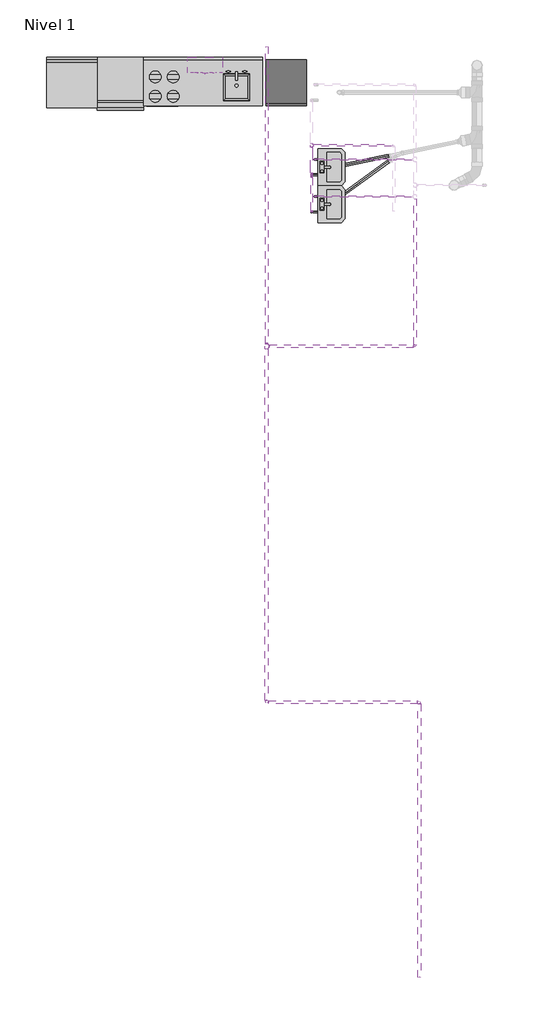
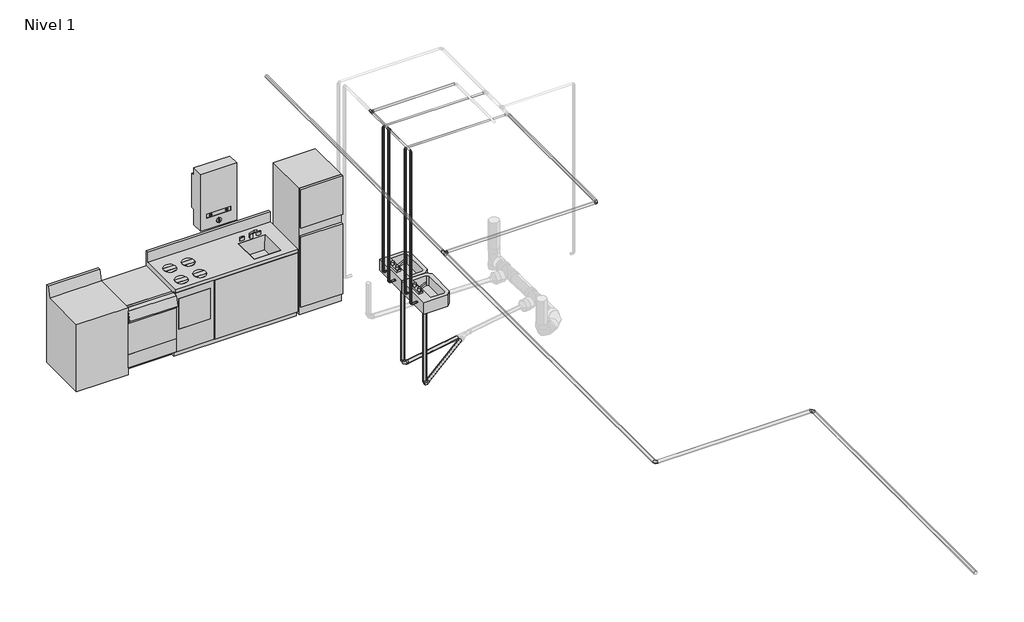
# One storey, part 1 of 2: 23 pipe segments, 19 pipe fittings, 5 flow terminals, 1 proxy.
"""IFC4 building model written with IfcOpenShell, lengths in millimetres."""

from ifc_helpers import new_model, si_unit, point, frame, frame_2d, origin, place, context, project, spatial, circle_curve, trimmed, segment, composite_curve, outline, extrude, transform, mapped, element, save
from components import proxy_2_3_l_a5d88984, flow_terminal_59181b66, flow_terminal_660_mmx610_mm_c472654d, lavabo_cte_a7cef0fe, unidad_de_cocina_cte_635_mmx2135_mm_826748c3, pipe_fitting_c06ac706, pipe_fitting_a088f956, pipe_fitting_5078887e, pipe_fitting_de849fe6, pipe_fitting_44e35838, pipe_fitting_fdf44402, pipe_fitting_a6ae4ebe, pipe_fitting_7ca1ba8e, pipe_fitting_e297dbca, m_codo_pvc_serie_40_dwv_140f2321, m_codo_pvc_serie_40_dwv_f30e2e26

model = new_model("IFC4")

# Units and contexts
model_context = context("Model", 3, world=origin())
ifc_project = project(units=[si_unit("LENGTHUNIT", "METRE", prefix="MILLI")], contexts=[model_context])

# Site, building, storey
site = spatial("IfcSite", under=ifc_project)
building = spatial("IfcBuilding", under=site)
storey = spatial("IfcBuildingStorey", under=building, Name="Nivel 1", Elevation=200.0)

# Proxy
placement = place(None, origin())
proxy_2_3_l_shape = proxy_2_3_l_a5d88984(model_context)
element("IfcBuildingElementProxy", 1, Name="M_Calentador de agua - Sin depósito : 2.3 L", ObjectType="M_Calentador de agua - Sin depósito : 2.3 L", at=placement, inside=storey, context=model_context, shape_type="MappedRepresentation", body=[
    mapped(proxy_2_3_l_shape, transform((7751.7362821, 12906.5177396, 1434.1070881), x_axis=(1.0, 0.0, 0.0), y_axis=(0.0, 0.0, 1.0), z_axis=(0.0, -1.0, 0.0))),
])

# Flow terminals
flow_terminal_shape = flow_terminal_59181b66(model_context)
element("IfcFlowTerminal", 2, ObjectType="Lavadora CTE : 660 mm x660 mm - Público", at=placement, inside=storey, context=model_context, shape_type="MappedRepresentation", body=[
    mapped(flow_terminal_shape, transform((6006.7375, 12906.5177396, 200.0), x_axis=(0.0, -1.0000000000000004, 0.0), y_axis=(1.0000000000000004, 0.0, 0.0), z_axis=(0.0, 0.0, 1.0))),
])
flow_terminal_660_mmx610_mm_shape = flow_terminal_660_mmx610_mm_c472654d(model_context)
element("IfcFlowTerminal", 3, ObjectType="Lavavajillas CTE : 660 mmx610 mm", at=placement, inside=storey, context=model_context, shape_type="MappedRepresentation", body=[
    mapped(flow_terminal_660_mmx610_mm_shape, transform((6641.7375, 12906.5177396, 200.0), x_axis=(0.0, -1.0000000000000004, 0.0), y_axis=(1.0000000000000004, 0.0, 0.0), z_axis=(0.0, 0.0, 1.0))),
])
lavabo_cte_shape = lavabo_cte_a7cef0fe(model_context)
element("IfcFlowTerminal", 4, ObjectType="Lavabo CTE : 485 mm x 355 mm - Privado", at=placement, inside=storey, context=model_context, shape_type="MappedRepresentation", body=[
    mapped(lavabo_cte_shape, transform((9230.0, 11471.9444303, 1065.0), x_axis=(0.0, 1.0, 0.0), y_axis=(0.0, 0.0, 1.0), z_axis=(1.0, 0.0, 0.0))),
])
element("IfcFlowTerminal", 5, ObjectType="Lavabo CTE : 485 mm x 355 mm - Privado", at=placement, inside=storey, context=model_context, shape_type="MappedRepresentation", body=[
    mapped(lavabo_cte_shape, transform((9230.0, 10986.9444303, 1065.0), x_axis=(0.0, 1.0, 0.0), y_axis=(0.0, 0.0, 1.0), z_axis=(1.0, 0.0, 0.0))),
])
unidad_de_cocina_cte_635_mmx2135_mm_shape = unidad_de_cocina_cte_635_mmx2135_mm_826748c3(model_context)
element("IfcFlowTerminal", 6, ObjectType="Unidad de cocina CTE : 635 mmx2135 mm", at=placement, inside=storey, context=model_context, shape_type="MappedRepresentation", body=[
    mapped(unidad_de_cocina_cte_635_mmx2135_mm_shape, transform((7725.2375, 12906.5177396, 200.0), x_axis=(0.0, -1.0000000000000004, 0.0), y_axis=(1.0000000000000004, 0.0, 0.0), z_axis=(0.0, 0.0, 1.0))),
])

# Pipe fittings
pipe_fitting_shape = pipe_fitting_c06ac706(model_context)
element("IfcPipeFitting", 7, ObjectType="M_Codo - Genérico : Estándar", at=placement, inside=storey, context=model_context, shape_type="MappedRepresentation", body=[
    mapped(pipe_fitting_shape, transform((10500.0001888, 9129.6230932, 2950.0), x_axis=(1.0, 0.0, 0.0), y_axis=(0.0, 1.0, 0.0), z_axis=(0.0, 0.0, 1.0))),
])
pipe_fitting_2_shape = pipe_fitting_a088f956(model_context)
element("IfcPipeFitting", 8, ObjectType="M_Codo - Genérico : Estándar", at=placement, inside=storey, context=model_context, shape_type="MappedRepresentation", body=[
    mapped(pipe_fitting_2_shape, transform((9190.3125102, 11571.9444303, 990.4), x_axis=(-1.0, 0.0, 0.0), y_axis=(0.0, 0.0, 1.0), z_axis=(0.0, 1.0, 0.0))),
])
element("IfcPipeFitting", 9, ObjectType="M_Codo - Genérico : Estándar", at=placement, inside=storey, context=model_context, shape_type="MappedRepresentation", body=[
    mapped(pipe_fitting_2_shape, transform((9190.3125102, 11086.9444303, 990.4), x_axis=(-1.0, 0.0, 0.0), y_axis=(0.0, 0.0, 1.0), z_axis=(0.0, 1.0, 0.0))),
])
element("IfcPipeFitting", 10, ObjectType="M_Codo - Genérico : Estándar", at=placement, inside=storey, context=model_context, shape_type="MappedRepresentation", body=[
    mapped(pipe_fitting_2_shape, transform((9190.3125102, 11086.9444303, 2950.0), x_axis=(0.0, 0.0, 1.0), y_axis=(1.0, 0.0, 0.0), z_axis=(0.0, 1.0, 0.0))),
])
element("IfcPipeFitting", 11, ObjectType="M_Codo - Genérico : Estándar", at=placement, inside=storey, context=model_context, shape_type="MappedRepresentation", body=[
    mapped(pipe_fitting_2_shape, transform((9190.3125102, 11571.9444303, 2950.0), x_axis=(0.0, 0.0, 1.0), y_axis=(1.0, 0.0, 0.0), z_axis=(0.0, 1.0, 0.0))),
])
element("IfcPipeFitting", 12, ObjectType="M_Codo - Genérico : Estándar", at=placement, inside=storey, context=model_context, shape_type="MappedRepresentation", body=[
    mapped(pipe_fitting_2_shape, transform((9146.7332837, 11371.8000018, 990.4), x_axis=(-1.0, 0.0, 0.0), y_axis=(0.0, 0.0, 1.0), z_axis=(0.0, 1.0, 0.0))),
])
element("IfcPipeFitting", 13, ObjectType="M_Codo - Genérico : Estándar", at=placement, inside=storey, context=model_context, shape_type="MappedRepresentation", body=[
    mapped(pipe_fitting_2_shape, transform((9146.7516979, 10886.9444303, 990.4), x_axis=(-1.0, 0.0, 0.0), y_axis=(0.0, 0.0, 1.0), z_axis=(0.0, 1.0, 0.0))),
])
element("IfcPipeFitting", 14, ObjectType="M_Codo - Genérico : Estándar", at=placement, inside=storey, context=model_context, shape_type="MappedRepresentation", body=[
    mapped(pipe_fitting_2_shape, transform((9146.7516979, 10886.9444303, 3050.0), x_axis=(0.0, 0.0, 1.0), y_axis=(0.0, 1.0, 0.0), z_axis=(-1.0, 0.0, 0.0))),
])
pipe_fitting_3_shape = pipe_fitting_5078887e(model_context)
element("IfcPipeFitting", 15, ObjectType="M_Te - Genérica : Estándar", at=placement, inside=storey, context=model_context, shape_type="MappedRepresentation", body=[
    mapped(pipe_fitting_3_shape, transform((9146.7332837, 11371.8000018, 3050.0), x_axis=(0.0033141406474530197, -0.9999945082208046, 0.0), y_axis=(0.0, 0.0, 1.0), z_axis=(-0.9999945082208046, -0.0033141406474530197, 0.0))),
])
pipe_fitting_4_shape = pipe_fitting_de849fe6(model_context)
element("IfcPipeFitting", 16, ObjectType="M_Transición - Genérica : Estándar", at=placement, inside=storey, context=model_context, shape_type="MappedRepresentation", body=[
    mapped(pipe_fitting_4_shape, transform((9146.8122017, 11347.9876326, 3050.0), x_axis=(0.0033141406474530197, -0.9999945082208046, 0.0), y_axis=(0.9999945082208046, 0.0033141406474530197, 0.0), z_axis=(0.0, 0.0, 1.0))),
])
pipe_fitting_5_shape = pipe_fitting_44e35838(model_context)
element("IfcPipeFitting", 17, ObjectType="M_Transición - Genérica : Estándar", at=placement, inside=storey, context=model_context, shape_type="MappedRepresentation", body=[
    mapped(pipe_fitting_5_shape, transform((9146.7332837, 11371.8000018, 3026.1875), x_axis=(0.0, 0.0, -1.0), y_axis=(0.0033141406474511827, -0.9999945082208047, 0.0), z_axis=(-0.9999945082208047, -0.0033141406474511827, 0.0))),
])
pipe_fitting_6_shape = pipe_fitting_fdf44402(model_context)
element("IfcPipeFitting", 18, ObjectType="M_Te - Genérica : Estándar", at=placement, inside=storey, context=model_context, shape_type="MappedRepresentation", body=[
    mapped(pipe_fitting_6_shape, transform((9145.4546855, 11757.5987093, 3050.0), x_axis=(-0.0033141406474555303, 0.9999945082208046, 0.0), y_axis=(-0.9999945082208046, -0.0033141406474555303, 0.0), z_axis=(0.0, 0.0, 1.0))),
])
pipe_fitting_7_shape = pipe_fitting_a6ae4ebe(model_context)
element("IfcPipeFitting", 19, ObjectType="M_Codo - Genérico : Estándar", at=placement, inside=storey, context=model_context, shape_type="MappedRepresentation", body=[
    mapped(pipe_fitting_7_shape, transform((10556.916867, 4476.7860803, 2950.0), x_axis=(0.0, 1.0, 0.0), y_axis=(-1.0, 0.0, 0.0), z_axis=(0.0, 0.0, 1.0))),
])
element("IfcPipeFitting", 20, ObjectType="M_Codo - Genérico : Estándar", at=placement, inside=storey, context=model_context, shape_type="MappedRepresentation", body=[
    mapped(pipe_fitting_7_shape, transform((8556.916867, 4476.7860803, 2950.0), x_axis=(0.0, -1.0, 0.0), y_axis=(1.0, 0.0, 0.0), z_axis=(0.0, 0.0, 1.0))),
])
pipe_fitting_8_shape = pipe_fitting_7ca1ba8e(model_context)
element("IfcPipeFitting", 21, ObjectType="M_Transición - Genérica : Estándar", at=placement, inside=storey, context=model_context, shape_type="MappedRepresentation", body=[
    mapped(pipe_fitting_8_shape, transform((8587.079367, 9129.6230932, 2950.0), x_axis=(1.0, 0.0, 0.0), y_axis=(0.0, 1.0, 0.0), z_axis=(0.0, 0.0, 1.0))),
])
element("IfcPipeFitting", 22, ObjectType="M_Transición - Genérica : Estándar", at=placement, inside=storey, context=model_context, shape_type="MappedRepresentation", body=[
    mapped(pipe_fitting_8_shape, transform((8556.916867, 9159.7855932, 2950.0), x_axis=(0.0, 1.0, 0.0), y_axis=(-1.0, 0.0, 0.0), z_axis=(0.0, 0.0, 1.0))),
])
pipe_fitting_9_shape = pipe_fitting_e297dbca(model_context)
element("IfcPipeFitting", 23, ObjectType="M_Te - Genérica : Estándar", at=placement, inside=storey, context=model_context, shape_type="MappedRepresentation", body=[
    mapped(pipe_fitting_9_shape, transform((8556.916867, 9129.6230932, 2950.0), x_axis=(0.0, -1.0, 0.0), y_axis=(-1.0, 0.0, 0.0), z_axis=(0.0, 0.0, -1.0))),
])
m_codo_pvc_serie_40_dwv_shape = m_codo_pvc_serie_40_dwv_140f2321(model_context)
element("IfcPipeFitting", 24, ObjectType="M_Codo - PVC - Serie 40 - DWV : Estándar", at=placement, inside=storey, context=model_context, shape_type="MappedRepresentation", body=[
    mapped(m_codo_pvc_serie_40_dwv_shape, transform((9382.4, 11471.9444303, -243.0053724), x_axis=(0.0, 0.0, -1.0), y_axis=(1.0, 0.0, 0.0), z_axis=(0.0, -1.0, 0.0))),
])
m_codo_pvc_serie_40_dwv_2_shape = m_codo_pvc_serie_40_dwv_f30e2e26(model_context)
element("IfcPipeFitting", 25, ObjectType="M_Codo - PVC - Serie 40 - DWV : Estándar", at=placement, inside=storey, context=model_context, shape_type="MappedRepresentation", body=[
    mapped(m_codo_pvc_serie_40_dwv_2_shape, transform((9382.4, 10986.9444303, -233.3053724), x_axis=(0.0, 0.0, -1.0), y_axis=(0.809031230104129, 0.5877656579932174, 0.0), z_axis=(0.5877656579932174, -0.809031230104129, 0.0))),
])

# Pipe segments
element("IfcPipeSegment", 26, ObjectType="PEX - Polietileno Reticulado", at=placement, inside=storey, context=model_context, shape_type="SweptSolid", body=[
    extrude(outline(composite_curve([segment(trimmed(circle_curve(frame_2d((11571.9444303, 990.4)), 10.668), [point((11582.6124303, 990.4))], [point((11571.9444303, 979.732))], False, "CARTESIAN"), True, "CONTINUOUS"), segment(trimmed(circle_curve(frame_2d((11571.9444303, 990.4)), 10.668), [point((11571.9444303, 979.732))], [point((11561.2764303, 990.4))], False, "CARTESIAN"), True, "CONTINUOUS"), segment(trimmed(circle_curve(frame_2d((11571.9444303, 990.4)), 10.668), [point((11561.2764303, 990.4))], [point((11571.9444303, 1001.068))], False, "CARTESIAN"), True, "CONTINUOUS"), segment(trimmed(circle_curve(frame_2d((11571.9444303, 990.4)), 10.668), [point((11571.9444303, 1001.068))], [point((11582.6124303, 990.4))], False, "CARTESIAN"), True, "CONTINUOUS")], self_intersect=False)), frame((9204.6000102, 0.0, 0.0), z_axis=(1.0, 0.0, 0.0), x_axis=(0.0, 1.0, 0.0)), (0.0, 0.0, 1.0), 25.3999898),
])
element("IfcPipeSegment", 27, ObjectType="PEX - Polietileno Reticulado", at=placement, inside=storey, context=model_context, shape_type="SweptSolid", body=[
    extrude(outline(composite_curve([segment(trimmed(circle_curve(frame_2d((9190.3125102, 11571.9444303)), 10.668), [point((9179.6445102, 11571.9444303))], [point((9190.3125102, 11582.6124303))], False, "CARTESIAN"), True, "CONTINUOUS"), segment(trimmed(circle_curve(frame_2d((9190.3125102, 11571.9444303)), 10.668), [point((9190.3125102, 11582.6124303))], [point((9200.9805102, 11571.9444303))], False, "CARTESIAN"), True, "CONTINUOUS"), segment(trimmed(circle_curve(frame_2d((9190.3125102, 11571.9444303)), 10.668), [point((9200.9805102, 11571.9444303))], [point((9190.3125102, 11561.2764303))], False, "CARTESIAN"), True, "CONTINUOUS"), segment(trimmed(circle_curve(frame_2d((9190.3125102, 11571.9444303)), 10.668), [point((9190.3125102, 11561.2764303))], [point((9179.6445102, 11571.9444303))], False, "CARTESIAN"), True, "CONTINUOUS")], self_intersect=False)), frame((0.0, 0.0, 1004.6875), z_axis=(0.0, 0.0, 1.0), x_axis=(1.0, 0.0, 0.0)), (0.0, 0.0, 1.0), 1931.025),
])
element("IfcPipeSegment", 28, ObjectType="PEX - Polietileno Reticulado", at=placement, inside=storey, context=model_context, shape_type="SweptSolid", body=[
    extrude(outline(composite_curve([segment(trimmed(circle_curve(frame_2d((11571.9444303, 2950.0)), 10.668), [point((11561.2764303, 2950.0))], [point((11571.9444303, 2960.668))], False, "CARTESIAN"), True, "CONTINUOUS"), segment(trimmed(circle_curve(frame_2d((11571.9444303, 2950.0)), 10.668), [point((11571.9444303, 2960.668))], [point((11582.6124303, 2950.0))], False, "CARTESIAN"), True, "CONTINUOUS"), segment(trimmed(circle_curve(frame_2d((11571.9444303, 2950.0)), 10.668), [point((11582.6124303, 2950.0))], [point((11571.9444303, 2939.332))], False, "CARTESIAN"), True, "CONTINUOUS"), segment(trimmed(circle_curve(frame_2d((11571.9444303, 2950.0)), 10.668), [point((11571.9444303, 2939.332))], [point((11561.2764303, 2950.0))], False, "CARTESIAN"), True, "CONTINUOUS")], self_intersect=False)), frame((9204.6000102, 0.0, 0.0), z_axis=(1.0, 0.0, 0.0), x_axis=(0.0, 1.0, 0.0)), (0.0, 0.0, 1.0), 1261.2689286),
])
element("IfcPipeSegment", 29, ObjectType="PEX - Polietileno Reticulado", at=placement, inside=storey, context=model_context, shape_type="SweptSolid", body=[
    extrude(outline(composite_curve([segment(trimmed(circle_curve(frame_2d((11086.9444303, 990.4)), 10.668), [point((11097.6124303, 990.4))], [point((11086.9444303, 979.732))], False, "CARTESIAN"), True, "CONTINUOUS"), segment(trimmed(circle_curve(frame_2d((11086.9444303, 990.4)), 10.668), [point((11086.9444303, 979.732))], [point((11076.2764303, 990.4))], False, "CARTESIAN"), True, "CONTINUOUS"), segment(trimmed(circle_curve(frame_2d((11086.9444303, 990.4)), 10.668), [point((11076.2764303, 990.4))], [point((11086.9444303, 1001.068))], False, "CARTESIAN"), True, "CONTINUOUS"), segment(trimmed(circle_curve(frame_2d((11086.9444303, 990.4)), 10.668), [point((11086.9444303, 1001.068))], [point((11097.6124303, 990.4))], False, "CARTESIAN"), True, "CONTINUOUS")], self_intersect=False)), frame((9204.6000102, 0.0, 0.0), z_axis=(1.0, 0.0, 0.0), x_axis=(0.0, 1.0, 0.0)), (0.0, 0.0, 1.0), 25.3999898),
])
element("IfcPipeSegment", 30, ObjectType="PEX - Polietileno Reticulado", at=placement, inside=storey, context=model_context, shape_type="SweptSolid", body=[
    extrude(outline(composite_curve([segment(trimmed(circle_curve(frame_2d((9190.3125102, 11086.9444303)), 10.668), [point((9179.6445102, 11086.9444303))], [point((9190.3125102, 11097.6124303))], False, "CARTESIAN"), True, "CONTINUOUS"), segment(trimmed(circle_curve(frame_2d((9190.3125102, 11086.9444303)), 10.668), [point((9190.3125102, 11097.6124303))], [point((9200.9805102, 11086.9444303))], False, "CARTESIAN"), True, "CONTINUOUS"), segment(trimmed(circle_curve(frame_2d((9190.3125102, 11086.9444303)), 10.668), [point((9200.9805102, 11086.9444303))], [point((9190.3125102, 11076.2764303))], False, "CARTESIAN"), True, "CONTINUOUS"), segment(trimmed(circle_curve(frame_2d((9190.3125102, 11086.9444303)), 10.668), [point((9190.3125102, 11076.2764303))], [point((9179.6445102, 11086.9444303))], False, "CARTESIAN"), True, "CONTINUOUS")], self_intersect=False)), frame((0.0, 0.0, 1004.6875), z_axis=(0.0, 0.0, 1.0), x_axis=(1.0, 0.0, 0.0)), (0.0, 0.0, 1.0), 1931.025),
])
element("IfcPipeSegment", 31, ObjectType="PEX - Polietileno Reticulado", at=placement, inside=storey, context=model_context, shape_type="SweptSolid", body=[
    extrude(outline(composite_curve([segment(trimmed(circle_curve(frame_2d((11086.9444303, 2950.0)), 10.668), [point((11076.2764303, 2950.0))], [point((11086.9444303, 2960.668))], False, "CARTESIAN"), True, "CONTINUOUS"), segment(trimmed(circle_curve(frame_2d((11086.9444303, 2950.0)), 10.668), [point((11086.9444303, 2960.668))], [point((11097.6124303, 2950.0))], False, "CARTESIAN"), True, "CONTINUOUS"), segment(trimmed(circle_curve(frame_2d((11086.9444303, 2950.0)), 10.668), [point((11097.6124303, 2950.0))], [point((11086.9444303, 2939.332))], False, "CARTESIAN"), True, "CONTINUOUS"), segment(trimmed(circle_curve(frame_2d((11086.9444303, 2950.0)), 10.668), [point((11086.9444303, 2939.332))], [point((11076.2764303, 2950.0))], False, "CARTESIAN"), True, "CONTINUOUS")], self_intersect=False)), frame((9204.6000102, 0.0, 0.0), z_axis=(1.0, 0.0, 0.0), x_axis=(0.0, 1.0, 0.0)), (0.0, 0.0, 1.0), 1261.2689286),
])
element("IfcPipeSegment", 32, ObjectType="PEX - Polietileno Reticulado", at=placement, inside=storey, context=model_context, shape_type="SweptSolid", body=[
    extrude(outline(composite_curve([segment(trimmed(circle_curve(frame_2d((2950.0, 10500.0001888)), 16.7005), [point((2950.0, 10483.2996888))], [point((2933.2995, 10500.0001888))], False, "CARTESIAN"), True, "CONTINUOUS"), segment(trimmed(circle_curve(frame_2d((2950.0, 10500.0001888)), 16.7005), [point((2933.2995, 10500.0001888))], [point((2950.0, 10516.7006888))], False, "CARTESIAN"), True, "CONTINUOUS"), segment(trimmed(circle_curve(frame_2d((2950.0, 10500.0001888)), 16.7005), [point((2950.0, 10516.7006888))], [point((2966.7005, 10500.0001888))], False, "CARTESIAN"), True, "CONTINUOUS"), segment(trimmed(circle_curve(frame_2d((2950.0, 10500.0001888)), 16.7005), [point((2966.7005, 10500.0001888))], [point((2950.0, 10483.2996888))], False, "CARTESIAN"), True, "CONTINUOUS")], self_intersect=False)), frame((0.0, 9150.2605932, 0.0), z_axis=(0.0, 1.0, 0.0), x_axis=(0.0, 0.0, 1.0)), (0.0, 0.0, 1.0), 1909.6963371),
])
element("IfcPipeSegment", 33, ObjectType="PEX - Polietileno Reticulado", at=placement, inside=storey, context=model_context, shape_type="SweptSolid", body=[
    extrude(outline(composite_curve([segment(trimmed(circle_curve(frame_2d((11371.9444303, 990.4)), 10.668), [point((11382.6124303, 990.4))], [point((11371.9444303, 979.732))], False, "CARTESIAN"), True, "CONTINUOUS"), segment(trimmed(circle_curve(frame_2d((11371.9444303, 990.4)), 10.668), [point((11371.9444303, 979.732))], [point((11361.2764303, 990.4))], False, "CARTESIAN"), True, "CONTINUOUS"), segment(trimmed(circle_curve(frame_2d((11371.9444303, 990.4)), 10.668), [point((11361.2764303, 990.4))], [point((11371.9444303, 1001.068))], False, "CARTESIAN"), True, "CONTINUOUS"), segment(trimmed(circle_curve(frame_2d((11371.9444303, 990.4)), 10.668), [point((11371.9444303, 1001.068))], [point((11382.6124303, 990.4))], False, "CARTESIAN"), True, "CONTINUOUS")], self_intersect=False)), frame((9161.0207837, 0.0, 0.0), z_axis=(1.0, 0.0, 0.0), x_axis=(0.0, 1.0, 0.0)), (0.0, 0.0, 1.0), 68.9792163),
])
element("IfcPipeSegment", 34, ObjectType="PEX - Polietileno Reticulado", at=placement, inside=storey, context=model_context, shape_type="SweptSolid", body=[
    extrude(outline(composite_curve([segment(trimmed(circle_curve(frame_2d((9146.7332837, 11371.8000018)), 10.668), [point((9136.0652837, 11371.8000018))], [point((9146.7332837, 11382.4680018))], False, "CARTESIAN"), True, "CONTINUOUS"), segment(trimmed(circle_curve(frame_2d((9146.7332837, 11371.8000018)), 10.668), [point((9146.7332837, 11382.4680018))], [point((9157.4012837, 11371.8000018))], False, "CARTESIAN"), True, "CONTINUOUS"), segment(trimmed(circle_curve(frame_2d((9146.7332837, 11371.8000018)), 10.668), [point((9157.4012837, 11371.8000018))], [point((9146.7332837, 11361.1320018))], False, "CARTESIAN"), True, "CONTINUOUS"), segment(trimmed(circle_curve(frame_2d((9146.7332837, 11371.8000018)), 10.668), [point((9146.7332837, 11361.1320018))], [point((9136.0652837, 11371.8000018))], False, "CARTESIAN"), True, "CONTINUOUS")], self_intersect=False)), frame((0.0, 0.0, 1004.6875), z_axis=(0.0, 0.0, 1.0), x_axis=(1.0, 0.0, 0.0)), (0.0, 0.0, 1.0), 2015.94375),
])
element("IfcPipeSegment", 35, ObjectType="PEX - Polietileno Reticulado", at=placement, inside=storey, context=model_context, shape_type="SweptSolid", body=[
    extrude(outline(composite_curve([segment(trimmed(circle_curve(frame_2d((10886.9444303, 990.4)), 10.668), [point((10897.6124303, 990.4))], [point((10886.9444303, 979.732))], False, "CARTESIAN"), True, "CONTINUOUS"), segment(trimmed(circle_curve(frame_2d((10886.9444303, 990.4)), 10.668), [point((10886.9444303, 979.732))], [point((10876.2764303, 990.4))], False, "CARTESIAN"), True, "CONTINUOUS"), segment(trimmed(circle_curve(frame_2d((10886.9444303, 990.4)), 10.668), [point((10876.2764303, 990.4))], [point((10886.9444303, 1001.068))], False, "CARTESIAN"), True, "CONTINUOUS"), segment(trimmed(circle_curve(frame_2d((10886.9444303, 990.4)), 10.668), [point((10886.9444303, 1001.068))], [point((10897.6124303, 990.4))], False, "CARTESIAN"), True, "CONTINUOUS")], self_intersect=False)), frame((9161.0391979, 0.0, 0.0), z_axis=(1.0, 0.0, 0.0), x_axis=(0.0, 1.0, 0.0)), (0.0, 0.0, 1.0), 68.9608021),
])
element("IfcPipeSegment", 36, ObjectType="PEX - Polietileno Reticulado", at=placement, inside=storey, context=model_context, shape_type="SweptSolid", body=[
    extrude(outline(composite_curve([segment(trimmed(circle_curve(frame_2d((9146.7516979, 10886.9444303)), 10.668), [point((9136.0836979, 10886.9444303))], [point((9146.7516979, 10897.6124303))], False, "CARTESIAN"), True, "CONTINUOUS"), segment(trimmed(circle_curve(frame_2d((9146.7516979, 10886.9444303)), 10.668), [point((9146.7516979, 10897.6124303))], [point((9157.4196979, 10886.9444303))], False, "CARTESIAN"), True, "CONTINUOUS"), segment(trimmed(circle_curve(frame_2d((9146.7516979, 10886.9444303)), 10.668), [point((9157.4196979, 10886.9444303))], [point((9146.7516979, 10876.2764303))], False, "CARTESIAN"), True, "CONTINUOUS"), segment(trimmed(circle_curve(frame_2d((9146.7516979, 10886.9444303)), 10.668), [point((9146.7516979, 10876.2764303))], [point((9136.0836979, 10886.9444303))], False, "CARTESIAN"), True, "CONTINUOUS")], self_intersect=False)), frame((0.0, 0.0, 1004.6875), z_axis=(0.0, 0.0, 1.0), x_axis=(1.0, 0.0, 0.0)), (0.0, 0.0, 1.0), 2031.025),
])
element("IfcPipeSegment", 37, ObjectType="PEX - Polietileno Reticulado", at=placement, inside=storey, context=model_context, shape_type="SweptSolid", body=[
    extrude(outline(composite_curve([segment(trimmed(circle_curve(frame_2d((3050.0, 9146.7516979)), 10.668), [point((3050.0, 9157.4196979))], [point((3060.668, 9146.7516979))], False, "CARTESIAN"), True, "CONTINUOUS"), segment(trimmed(circle_curve(frame_2d((3050.0, 9146.7516979)), 10.668), [point((3060.668, 9146.7516979))], [point((3050.0, 9136.0836979))], False, "CARTESIAN"), True, "CONTINUOUS"), segment(trimmed(circle_curve(frame_2d((3050.0, 9146.7516979)), 10.668), [point((3050.0, 9136.0836979))], [point((3039.332, 9146.7516979))], False, "CARTESIAN"), True, "CONTINUOUS"), segment(trimmed(circle_curve(frame_2d((3050.0, 9146.7516979)), 10.668), [point((3039.332, 9146.7516979))], [point((3050.0, 9157.4196979))], False, "CARTESIAN"), True, "CONTINUOUS")], self_intersect=False)), frame((0.0, 10901.2319303, 0.0), z_axis=(0.0, 1.0, 0.0), x_axis=(0.0, 0.0, 1.0)), (0.0, 0.0, 1.0), 441.1992213),
])
element("IfcPipeSegment", 38, ObjectType="PEX - Polietileno Reticulado", at=placement, inside=storey, context=model_context, shape_type="SweptSolid", body=[
    extrude(outline(composite_curve([segment(trimmed(circle_curve(frame_2d((0.0, -13.335)), 13.335), [point((-13.335, -13.335))], [point((0.0, 0.0))], False, "CARTESIAN"), True, "CONTINUOUS"), segment(trimmed(circle_curve(frame_2d((0.0, -13.335)), 13.335), [point((0.0, 0.0))], [point((13.335, -13.335))], False, "CARTESIAN"), True, "CONTINUOUS"), segment(trimmed(circle_curve(frame_2d((0.0, -13.335)), 13.335), [point((13.335, -13.335))], [point((0.0, -26.67))], False, "CARTESIAN"), True, "CONTINUOUS"), segment(trimmed(circle_curve(frame_2d((0.0, -13.335)), 13.335), [point((0.0, -26.67))], [point((-13.335, -13.335))], False, "CARTESIAN"), True, "CONTINUOUS")], self_intersect=False)), frame((9146.6543657, 11395.6123711, 3036.665), z_axis=(-0.0033141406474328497, 0.9999945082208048, 0.0), x_axis=(0.9999945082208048, 0.0033141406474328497, 0.0)), (0.0, 0.0, 1.0), 338.1758262),
])
element("IfcPipeSegment", 39, ObjectType="PEX - Polietileno Reticulado", at=placement, inside=storey, context=model_context, shape_type="SweptSolid", body=[
    extrude(outline(composite_curve([segment(trimmed(circle_curve(frame_2d((11757.7431378, 3050.0)), 13.335), [point((11744.4081378, 3050.0))], [point((11757.7431378, 3063.335))], False, "CARTESIAN"), True, "CONTINUOUS"), segment(trimmed(circle_curve(frame_2d((11757.7431378, 3050.0)), 13.335), [point((11757.7431378, 3063.335))], [point((11771.0781378, 3050.0))], False, "CARTESIAN"), True, "CONTINUOUS"), segment(trimmed(circle_curve(frame_2d((11757.7431378, 3050.0)), 13.335), [point((11771.0781378, 3050.0))], [point((11757.7431378, 3036.665))], False, "CARTESIAN"), True, "CONTINUOUS"), segment(trimmed(circle_curve(frame_2d((11757.7431378, 3050.0)), 13.335), [point((11757.7431378, 3036.665))], [point((11744.4081378, 3050.0))], False, "CARTESIAN"), True, "CONTINUOUS")], self_intersect=False)), frame((9169.2671855, 0.0, 0.0), z_axis=(1.0, 0.0, 0.0), x_axis=(0.0, 1.0, 0.0)), (0.0, 0.0, 1.0), 1035.6392997),
])
element("IfcPipeSegment", 40, ObjectType="PEX - Polietileno Reticulado", at=placement, inside=storey, context=model_context, shape_type="SweptSolid", body=[
    extrude(outline(composite_curve([segment(trimmed(circle_curve(frame_2d((2950.0, 10556.916867)), 21.082), [point((2950.0, 10577.998867))], [point((2971.082, 10556.916867))], False, "CARTESIAN"), True, "CONTINUOUS"), segment(trimmed(circle_curve(frame_2d((2950.0, 10556.916867)), 21.082), [point((2971.082, 10556.916867))], [point((2950.0, 10535.834867))], False, "CARTESIAN"), True, "CONTINUOUS"), segment(trimmed(circle_curve(frame_2d((2950.0, 10556.916867)), 21.082), [point((2950.0, 10535.834867))], [point((2928.918, 10556.916867))], False, "CARTESIAN"), True, "CONTINUOUS"), segment(trimmed(circle_curve(frame_2d((2950.0, 10556.916867)), 21.082), [point((2928.918, 10556.916867))], [point((2950.0, 10577.998867))], False, "CARTESIAN"), True, "CONTINUOUS")], self_intersect=False)), frame((0.0, 876.7860803, 0.0), z_axis=(0.0, 1.0, 0.0), x_axis=(0.0, 0.0, 1.0)), (0.0, 0.0, 1.0), 3576.1875),
])
element("IfcPipeSegment", 41, ObjectType="PEX - Polietileno Reticulado", at=placement, inside=storey, context=model_context, shape_type="SweptSolid", body=[
    extrude(outline(composite_curve([segment(trimmed(circle_curve(frame_2d((4476.7860803, 2950.0)), 21.082), [point((4497.8680803, 2950.0))], [point((4476.7860803, 2928.918))], False, "CARTESIAN"), True, "CONTINUOUS"), segment(trimmed(circle_curve(frame_2d((4476.7860803, 2950.0)), 21.082), [point((4476.7860803, 2928.918))], [point((4455.7040803, 2950.0))], False, "CARTESIAN"), True, "CONTINUOUS"), segment(trimmed(circle_curve(frame_2d((4476.7860803, 2950.0)), 21.082), [point((4455.7040803, 2950.0))], [point((4476.7860803, 2971.082))], False, "CARTESIAN"), True, "CONTINUOUS"), segment(trimmed(circle_curve(frame_2d((4476.7860803, 2950.0)), 21.082), [point((4476.7860803, 2971.082))], [point((4497.8680803, 2950.0))], False, "CARTESIAN"), True, "CONTINUOUS")], self_intersect=False)), frame((8580.729367, 0.0, 0.0), z_axis=(1.0, 0.0, 0.0), x_axis=(0.0, 1.0, 0.0)), (0.0, 0.0, 1.0), 1952.375),
])
element("IfcPipeSegment", 42, ObjectType="PEX - Polietileno Reticulado", at=placement, inside=storey, context=model_context, shape_type="SweptSolid", body=[
    extrude(outline(composite_curve([segment(trimmed(circle_curve(frame_2d((2950.0, 8556.916867)), 16.7005), [point((2950.0, 8573.617367))], [point((2966.7005, 8556.916867))], False, "CARTESIAN"), True, "CONTINUOUS"), segment(trimmed(circle_curve(frame_2d((2950.0, 8556.916867)), 16.7005), [point((2966.7005, 8556.916867))], [point((2950.0, 8540.216367))], False, "CARTESIAN"), True, "CONTINUOUS"), segment(trimmed(circle_curve(frame_2d((2950.0, 8556.916867)), 16.7005), [point((2950.0, 8540.216367))], [point((2933.2995, 8556.916867))], False, "CARTESIAN"), True, "CONTINUOUS"), segment(trimmed(circle_curve(frame_2d((2950.0, 8556.916867)), 16.7005), [point((2933.2995, 8556.916867))], [point((2950.0, 8573.617367))], False, "CARTESIAN"), True, "CONTINUOUS")], self_intersect=False)), frame((0.0, 9168.5168432, 0.0), z_axis=(0.0, 1.0, 0.0), x_axis=(0.0, 0.0, 1.0)), (0.0, 0.0, 1.0), 3880.0),
])
element("IfcPipeSegment", 43, ObjectType="PEX - Polietileno Reticulado", at=placement, inside=storey, context=model_context, shape_type="SweptSolid", body=[
    extrude(outline(composite_curve([segment(trimmed(circle_curve(frame_2d((9129.6230932, 2950.0)), 16.7005), [point((9112.9225932, 2950.0))], [point((9129.6230932, 2966.7005))], False, "CARTESIAN"), True, "CONTINUOUS"), segment(trimmed(circle_curve(frame_2d((9129.6230932, 2950.0)), 16.7005), [point((9129.6230932, 2966.7005))], [point((9146.3235932, 2950.0))], False, "CARTESIAN"), True, "CONTINUOUS"), segment(trimmed(circle_curve(frame_2d((9129.6230932, 2950.0)), 16.7005), [point((9146.3235932, 2950.0))], [point((9129.6230932, 2933.2995))], False, "CARTESIAN"), True, "CONTINUOUS"), segment(trimmed(circle_curve(frame_2d((9129.6230932, 2950.0)), 16.7005), [point((9129.6230932, 2933.2995))], [point((9112.9225932, 2950.0))], False, "CARTESIAN"), True, "CONTINUOUS")], self_intersect=False)), frame((8595.810617, 0.0, 0.0), z_axis=(1.0, 0.0, 0.0), x_axis=(0.0, 1.0, 0.0)), (0.0, 0.0, 1.0), 1883.5520718),
])
element("IfcPipeSegment", 44, ObjectType="PEX - Polietileno Reticulado", at=placement, inside=storey, context=model_context, shape_type="SweptSolid", body=[
    extrude(outline(composite_curve([segment(trimmed(circle_curve(frame_2d((2950.0, 8556.916867)), 21.082), [point((2950.0, 8577.998867))], [point((2971.082, 8556.916867))], False, "CARTESIAN"), True, "CONTINUOUS"), segment(trimmed(circle_curve(frame_2d((2950.0, 8556.916867)), 21.082), [point((2971.082, 8556.916867))], [point((2950.0, 8535.834867))], False, "CARTESIAN"), True, "CONTINUOUS"), segment(trimmed(circle_curve(frame_2d((2950.0, 8556.916867)), 21.082), [point((2950.0, 8535.834867))], [point((2928.918, 8556.916867))], False, "CARTESIAN"), True, "CONTINUOUS"), segment(trimmed(circle_curve(frame_2d((2950.0, 8556.916867)), 21.082), [point((2928.918, 8556.916867))], [point((2950.0, 8577.998867))], False, "CARTESIAN"), True, "CONTINUOUS")], self_intersect=False)), frame((0.0, 4500.5985803, 0.0), z_axis=(0.0, 1.0, 0.0), x_axis=(0.0, 0.0, 1.0)), (0.0, 0.0, 1.0), 4598.8620129),
])
element("IfcPipeSegment", 45, ObjectType="PVC", at=placement, inside=storey, context=model_context, shape_type="SweptSolid", body=[
    extrude(outline(composite_curve([segment(trimmed(circle_curve(frame_2d((0.0, 21.0820001)), 21.082), [point((-20.9863211, 23.088254))], [point((2.0062539, 42.068321))], False, "CARTESIAN"), True, "CONTINUOUS"), segment(trimmed(circle_curve(frame_2d((0.0, 21.0820001)), 21.082), [point((2.0062539, 42.068321))], [point((20.986321, 19.0757461))], False, "CARTESIAN"), True, "CONTINUOUS"), segment(trimmed(circle_curve(frame_2d((0.0, 21.0820001)), 21.082), [point((20.986321, 19.0757461))], [point((-2.006254, 0.095679))], False, "CARTESIAN"), True, "CONTINUOUS"), segment(trimmed(circle_curve(frame_2d((0.0, 21.0820001)), 21.082), [point((-2.006254, 0.095679))], [point((-20.9863211, 23.088254))], False, "CARTESIAN"), True, "CONTINUOUS")], self_intersect=False)), frame((10158.4577655, 11617.2110452, -279.5088218), z_axis=(-0.9794565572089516, -0.20070156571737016, 0.01958913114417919), x_axis=(0.2016552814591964, -0.9748242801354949, 0.09514604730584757)), (0.0, 0.0, 1.0), 733.9980388),
])
element("IfcPipeSegment", 46, ObjectType="PVC", at=placement, inside=storey, context=model_context, shape_type="SweptSolid", body=[
    extrude(outline(composite_curve([segment(trimmed(circle_curve(frame_2d((9382.4, 11471.9444303)), 21.082), [point((9403.482, 11471.9444303))], [point((9382.4, 11450.8624303))], False, "CARTESIAN"), True, "CONTINUOUS"), segment(trimmed(circle_curve(frame_2d((9382.4, 11471.9444303)), 21.082), [point((9382.4, 11450.8624303))], [point((9361.318, 11471.9444303))], False, "CARTESIAN"), True, "CONTINUOUS"), segment(trimmed(circle_curve(frame_2d((9382.4, 11471.9444303)), 21.082), [point((9361.318, 11471.9444303))], [point((9382.4, 11493.0264303))], False, "CARTESIAN"), True, "CONTINUOUS"), segment(trimmed(circle_curve(frame_2d((9382.4, 11471.9444303)), 21.082), [point((9382.4, 11493.0264303))], [point((9403.482, 11471.9444303))], False, "CARTESIAN"), True, "CONTINUOUS")], self_intersect=False)), frame((0.0, 0.0, -185.8553724), z_axis=(0.0, 0.0, 1.0), x_axis=(1.0, 0.0, 0.0)), (0.0, 0.0, 1.0), 1098.4553724),
])
element("IfcPipeSegment", 47, ObjectType="PVC", at=placement, inside=storey, context=model_context, shape_type="SweptSolid", body=[
    extrude(outline(composite_curve([segment(trimmed(circle_curve(frame_2d((0.0, -21.082)), 21.082), [point((21.0767746, -21.5513574))], [point((-0.4693575, -42.1587747))], False, "CARTESIAN"), True, "CONTINUOUS"), segment(trimmed(circle_curve(frame_2d((0.0, -21.082)), 21.082), [point((-0.4693575, -42.1587747))], [point((-21.0767746, -20.6126426))], False, "CARTESIAN"), True, "CONTINUOUS"), segment(trimmed(circle_curve(frame_2d((0.0, -21.082)), 21.082), [point((-21.0767746, -20.6126426))], [point((0.4693574, -0.0052254))], False, "CARTESIAN"), True, "CONTINUOUS"), segment(trimmed(circle_curve(frame_2d((0.0, -21.082)), 21.082), [point((0.4693574, -0.0052254))], [point((21.0767746, -21.5513574))], False, "CARTESIAN"), True, "CONTINUOUS")], self_intersect=False)), frame((10153.0936568, 11547.4377769, -227.6452295), z_axis=(-0.8089253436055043, -0.5876887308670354, 0.016178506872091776), x_axis=(0.5879113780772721, -0.8086189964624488, 0.02226050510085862)), (0.0, 0.0, 1.0), 895.587682),
])
element("IfcPipeSegment", 48, ObjectType="PVC", at=placement, inside=storey, context=model_context, shape_type="SweptSolid", body=[
    extrude(outline(composite_curve([segment(trimmed(circle_curve(frame_2d((9382.4, 10986.9444303)), 21.082), [point((9403.482, 10986.9444303))], [point((9382.4, 10965.8624303))], False, "CARTESIAN"), True, "CONTINUOUS"), segment(trimmed(circle_curve(frame_2d((9382.4, 10986.9444303)), 21.082), [point((9382.4, 10965.8624303))], [point((9361.318, 10986.9444303))], False, "CARTESIAN"), True, "CONTINUOUS"), segment(trimmed(circle_curve(frame_2d((9382.4, 10986.9444303)), 21.082), [point((9361.318, 10986.9444303))], [point((9382.4, 11008.0264303))], False, "CARTESIAN"), True, "CONTINUOUS"), segment(trimmed(circle_curve(frame_2d((9382.4, 10986.9444303)), 21.082), [point((9382.4, 11008.0264303))], [point((9403.482, 10986.9444303))], False, "CARTESIAN"), True, "CONTINUOUS")], self_intersect=False)), frame((0.0, 0.0, -176.1553724), z_axis=(0.0, 0.0, 1.0), x_axis=(1.0, 0.0, 0.0)), (0.0, 0.0, 1.0), 1088.7553724),
])

save(model, "model.ifc")
